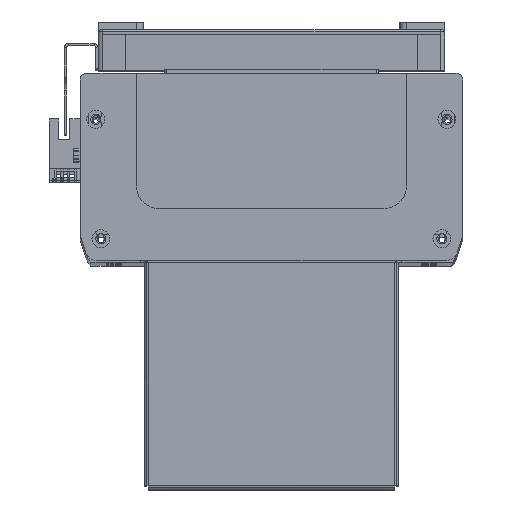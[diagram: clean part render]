
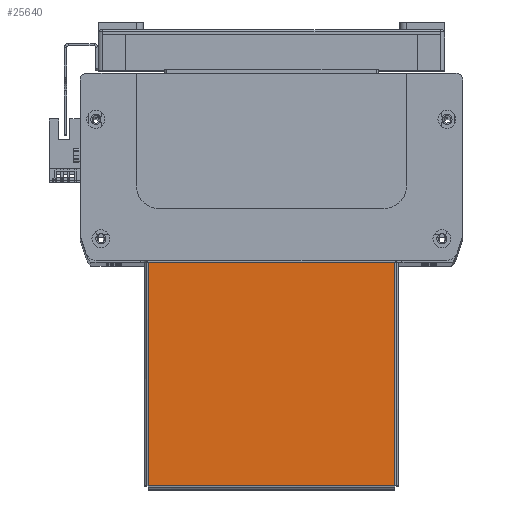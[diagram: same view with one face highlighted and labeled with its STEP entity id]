
A CAD part, top view. The second image highlights one B-rep face of the part: STEP entity #25640.
In plain terms, the highlighted planar face has unit normal (0, 0, 1).
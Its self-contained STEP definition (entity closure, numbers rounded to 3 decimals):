
#15333 = FACE_OUTER_BOUND ( 'NONE', #23833, .T. ) ;
#15811 = DIRECTION ( 'NONE',  ( 1., 0., 0. ) ) ;
#15820 = PLANE ( 'NONE',  #46759 ) ;
#15832 = CARTESIAN_POINT ( 'NONE',  ( 0., 0., 0. ) ) ;
#15840 = DIRECTION ( 'NONE',  ( 0., 0., 1. ) ) ;
#19167 = VERTEX_POINT ( 'NONE', #37041 ) ;
#19174 = VERTEX_POINT ( 'NONE', #37097 ) ;
#19184 = VERTEX_POINT ( 'NONE', #37126 ) ;
#19218 = VERTEX_POINT ( 'NONE', #37109 ) ;
#23833 = EDGE_LOOP ( 'NONE', ( #24110, #24164, #24148, #24158 ) ) ;
#24110 = ORIENTED_EDGE ( 'NONE', *, *, #35215, .T. ) ;
#24148 = ORIENTED_EDGE ( 'NONE', *, *, #35220, .T. ) ;
#24158 = ORIENTED_EDGE ( 'NONE', *, *, #35193, .T. ) ;
#24164 = ORIENTED_EDGE ( 'NONE', *, *, #35225, .T. ) ;
#25640 = ADVANCED_FACE ( 'NONE', ( #15333 ), #15820, .T. ) ;
#35193 = EDGE_CURVE ( 'NONE', #19167, #19184, #43832, .T. ) ;
#35215 = EDGE_CURVE ( 'NONE', #19184, #19174, #43981, .T. ) ;
#35220 = EDGE_CURVE ( 'NONE', #19218, #19167, #44018, .T. ) ;
#35225 = EDGE_CURVE ( 'NONE', #19174, #19218, #44016, .T. ) ;
#37041 = CARTESIAN_POINT ( 'NONE',  ( 54.763, 50., 0. ) ) ;
#37097 = CARTESIAN_POINT ( 'NONE',  ( -54.763, -49.263, 0. ) ) ;
#37109 = CARTESIAN_POINT ( 'NONE',  ( 54.763, -49.263, 0. ) ) ;
#37126 = CARTESIAN_POINT ( 'NONE',  ( -54.763, 50., 0. ) ) ;
#43129 = CARTESIAN_POINT ( 'NONE',  ( -55.5, 50., 0. ) ) ;
#43137 = DIRECTION ( 'NONE',  ( -1., 0., 0. ) ) ;
#43239 = DIRECTION ( 'NONE',  ( 0., 1., 0. ) ) ;
#43251 = CARTESIAN_POINT ( 'NONE',  ( 54.763, -49.293, 0. ) ) ;
#43261 = DIRECTION ( 'NONE',  ( 1., 0., 0. ) ) ;
#43289 = DIRECTION ( 'NONE',  ( 0., -1., 0. ) ) ;
#43315 = CARTESIAN_POINT ( 'NONE',  ( -54.793, -49.263, 0. ) ) ;
#43326 = CARTESIAN_POINT ( 'NONE',  ( -54.763, 50., 0. ) ) ;
#43832 = LINE ( 'NONE', #43129, #43847 ) ;
#43847 = VECTOR ( 'NONE', #43137, 1000. ) ;
#43981 = LINE ( 'NONE', #43326, #44046 ) ;
#43988 = VECTOR ( 'NONE', #43239, 1000. ) ;
#44016 = LINE ( 'NONE', #43315, #44063 ) ;
#44018 = LINE ( 'NONE', #43251, #43988 ) ;
#44046 = VECTOR ( 'NONE', #43289, 1000. ) ;
#44063 = VECTOR ( 'NONE', #43261, 1000. ) ;
#46759 = AXIS2_PLACEMENT_3D ( 'NONE', #15832, #15840, #15811 ) ;
